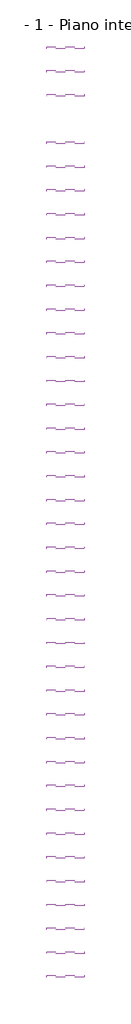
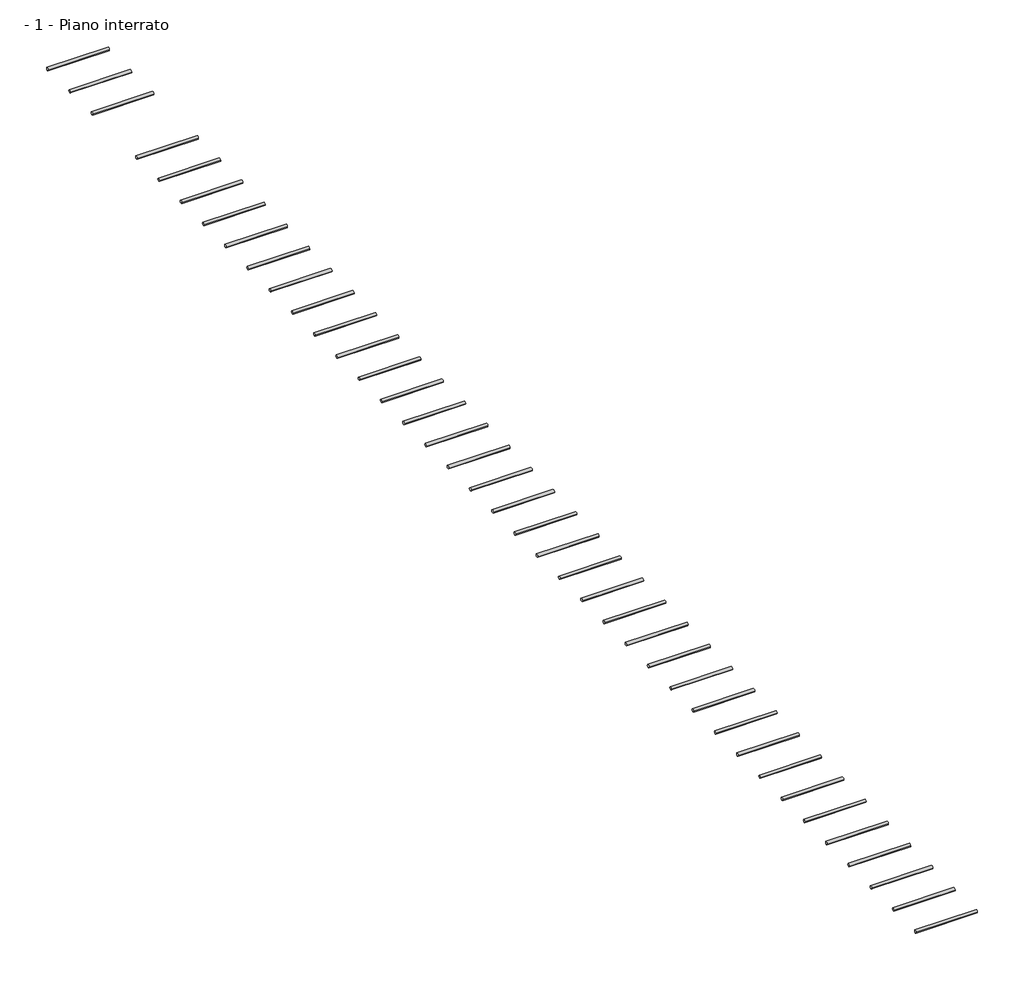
# One storey: 39 proxies.
"""IFC4 building model written with IfcOpenShell, lengths in millimetres."""

import ifcopenshell
import ifcopenshell.guid

model = None  # the IFC model being written
_history = None  # IfcOwnerHistory: only IFC2X3 demands one
_inside = {}  # id of a spatial element -> (the spatial element, [elements in it])
_under = {}  # id of a project, library or spatial element -> (it, [spatial elements below it])
_declared = {}  # id of a project -> (the project, [libraries it declares])
_typed = {}  # id of a type object -> (the type object, [elements of that type])
_made_of = {}  # id of a material, layer set ... -> (it, [elements and type objects made of it])


def new_model(schema):
    """Start an empty IFC model of exactly this schema.

    Asked for "IFC4X3", IfcOpenShell would pick the latest addendum, in which some entities
    have other attributes; the version numbers below select the first issue.
    IFC2X3 requires an IfcOwnerHistory on every rooted entity: one is made here for all.
    """
    global model, _history
    if schema == "IFC4X3":
        model = ifcopenshell.file(schema_version=(4, 3, 0, 0))
    else:
        model = ifcopenshell.file(schema=schema)
    _inside.clear()
    _under.clear()
    _declared.clear()
    _typed.clear()
    _made_of.clear()
    _history = None
    if model.schema == "IFC2X3":
        org = make("IfcOrganization", Name="unknown")
        user = make(
            "IfcPersonAndOrganization",
            ThePerson=make("IfcPerson", FamilyName="unknown"),
            TheOrganization=org,
        )
        app = make(
            "IfcApplication",
            ApplicationDeveloper=org,
            Version="unknown",
            ApplicationFullName="unknown",
            ApplicationIdentifier="unknown",
        )
        _history = make(
            "IfcOwnerHistory",
            OwningUser=user,
            OwningApplication=app,
            ChangeAction="ADDED",
            CreationDate=0,
        )
    return model


def make(cls, **values):
    """One entity of the class cls with the attributes given. An attribute that is None is left unset."""
    return model.create_entity(
        cls, **{name: value for name, value in values.items() if value is not None}
    )


def rooted(cls, **values):
    """An entity with a GlobalId (a new one), such as an element, a storey or a relation."""
    return make(cls, GlobalId=ifcopenshell.guid.new(), OwnerHistory=_history, **values)


def si_unit(unit_type, name, prefix=None):
    """IfcSIUnit, for example si_unit("LENGTHUNIT", "METRE", prefix="MILLI")."""
    return make("IfcSIUnit", UnitType=unit_type, Prefix=prefix, Name=name)


def assignment(units):
    """IfcUnitAssignment: the units of a project."""
    return None if units is None else make("IfcUnitAssignment", Units=units)


def point(xyz):
    """IfcCartesianPoint."""
    return None if xyz is None else make("IfcCartesianPoint", Coordinates=xyz)


def direction(xyz):
    """IfcDirection."""
    return None if xyz is None else make("IfcDirection", DirectionRatios=xyz)


def frame(location, z_axis=None, x_axis=None):
    """IfcAxis2Placement3D, a coordinate frame: its origin and axes. An axis left out is left unset."""
    return make(
        "IfcAxis2Placement3D",
        Location=point(location),
        Axis=direction(z_axis),
        RefDirection=direction(x_axis),
    )


def frame_2d(location, x_axis=None):
    """IfcAxis2Placement2D, a coordinate frame in the plane: its origin and x axis."""
    return make(
        "IfcAxis2Placement2D", Location=point(location), RefDirection=direction(x_axis)
    )


def origin():
    """The frame at (0, 0, 0) with its axes left unset."""
    return frame((0.0, 0.0, 0.0))


def origin_with_axes():
    """The frame at (0, 0, 0) with the z axis (0, 0, 1) and the x axis (1, 0, 0) written out."""
    return frame((0.0, 0.0, 0.0), z_axis=(0.0, 0.0, 1.0), x_axis=(1.0, 0.0, 0.0))


def origin_2d():
    """The frame at (0, 0) in the plane with its x axis left unset."""
    return frame_2d((0.0, 0.0))


def place(relative_to, where):
    """IfcLocalPlacement: puts the frame where relative to a parent placement (None: the world)."""
    return make(
        "IfcLocalPlacement", PlacementRelTo=relative_to, RelativePlacement=where
    )


def context(
    kind, dimensions, precision=None, world=None, true_north=None, identifier=None
):
    """IfcGeometricRepresentationContext, for example the 3D "Model" context."""
    return make(
        "IfcGeometricRepresentationContext",
        ContextIdentifier=identifier,
        ContextType=kind,
        CoordinateSpaceDimension=dimensions,
        Precision=precision,
        WorldCoordinateSystem=world,
        TrueNorth=true_north,
    )


def project(units=None, contexts=None):
    """IfcProject with its units and contexts."""
    return rooted(
        "IfcProject",
        Name="project",
        RepresentationContexts=contexts,
        UnitsInContext=assignment(units),
    )


def spatial(cls, under=None, at=None, **own):
    """A site, building, storey or space (cls), placed at a placement, below another one or the project."""
    s = rooted(cls, ObjectPlacement=at, **own)
    if under is not None:
        _under.setdefault(under.id(), (under, []))[1].append(s)
    return s


def circle_curve(where, radius):
    """IfcCircle in the frame where."""
    return make("IfcCircle", Position=where, Radius=radius)


def trimmed(basis, trim1, trim2, sense, master):
    """IfcTrimmedCurve: the piece of a basis curve between two trims."""
    return make(
        "IfcTrimmedCurve",
        BasisCurve=basis,
        Trim1=trim1,
        Trim2=trim2,
        SenseAgreement=sense,
        MasterRepresentation=master,
    )


def segment(curve, same_sense, transition):
    """IfcCompositeCurveSegment."""
    return make(
        "IfcCompositeCurveSegment",
        Transition=transition,
        SameSense=same_sense,
        ParentCurve=curve,
    )


def composite_curve(segments, self_intersect=None):
    """IfcCompositeCurve: segments joined end to end."""
    return make("IfcCompositeCurve", Segments=segments, SelfIntersect=self_intersect)


def outline(outer, holes=None, kind="AREA"):
    """IfcArbitraryClosedProfileDef: a profile drawn as a closed curve; with holes, ...WithVoids."""
    if holes is None:
        return make("IfcArbitraryClosedProfileDef", ProfileType=kind, OuterCurve=outer)
    return make(
        "IfcArbitraryProfileDefWithVoids",
        ProfileType=kind,
        OuterCurve=outer,
        InnerCurves=holes,
    )


def extrude(swept, where, along, depth):
    """IfcExtrudedAreaSolid: the profile swept, set in the frame where, extruded along a direction by depth."""
    return make(
        "IfcExtrudedAreaSolid",
        SweptArea=swept,
        Position=where,
        ExtrudedDirection=direction(along),
        Depth=depth,
    )


def shape(context_of_items, identifier, shape_type, items):
    """IfcShapeRepresentation: the items that make up one representation, for example the "Body"."""
    return make(
        "IfcShapeRepresentation",
        ContextOfItems=context_of_items,
        RepresentationIdentifier=identifier,
        RepresentationType=shape_type,
        Items=items,
    )


def source(mapping_origin, context_of_items, identifier, shape_type, items):
    """IfcRepresentationMap: a shape defined once, which mapped items show again and again."""
    return make(
        "IfcRepresentationMap",
        MappingOrigin=mapping_origin,
        MappedRepresentation=shape(context_of_items, identifier, shape_type, items),
    )


def transform(
    local_origin,
    x_axis=None,
    y_axis=None,
    z_axis=None,
    scale=None,
    scale2=None,
    scale3=None,
    uniform=True,
):
    """IfcCartesianTransformationOperator3D, or its non-uniform kind. x_axis, y_axis, z_axis: its Axis1, 2, 3."""
    if uniform:
        return make(
            "IfcCartesianTransformationOperator3D",
            Axis1=direction(x_axis),
            Axis2=direction(y_axis),
            LocalOrigin=point(local_origin),
            Scale=scale,
            Axis3=direction(z_axis),
        )
    return make(
        "IfcCartesianTransformationOperator3DnonUniform",
        Axis1=direction(x_axis),
        Axis2=direction(y_axis),
        LocalOrigin=point(local_origin),
        Scale=scale,
        Axis3=direction(z_axis),
        Scale2=scale2,
        Scale3=scale3,
    )


def mapped(mapping_source, mapping_target):
    """IfcMappedItem: shows the shape of a source again, moved by a transform."""
    return make(
        "IfcMappedItem", MappingSource=mapping_source, MappingTarget=mapping_target
    )


def made_of(thing, what):
    """Note that an element or type object is made of a material, layer set ...; save() writes the relation."""
    if what is not None:
        _made_of.setdefault(what.id(), (what, []))[1].append(thing)
    return thing


def element(
    cls,
    number,
    at=None,
    inside=None,
    cuts=None,
    type_object=None,
    material=None,
    context=None,
    identifier="Body",
    shape_type=None,
    held_by="IfcProductDefinitionShape",
    body=None,
    shapes=None,
    **own,
):
    """One element of the class cls, such as IfcWall. Its Tag is "e" and its number.

    at: its placement. inside: the storey or other place that contains it. cuts: it is an
    opening in that element (IfcRelVoidsElement). A single representation is given by context,
    identifier, shape_type and body (its items); several are given by shapes. held_by: the class
    of the entity that holds the representations. save() writes the other relations.
    """
    e = rooted(cls, Tag="e%d" % number, ObjectPlacement=at, **own)
    if body is not None:
        shapes = [shape(context, identifier, shape_type, body)]
    if shapes is not None:
        e.Representation = make(held_by, Representations=shapes)
    if inside is not None:
        _inside.setdefault(inside.id(), (inside, []))[1].append(e)
    if cuts is not None:
        rooted(
            "IfcRelVoidsElement", RelatingBuildingElement=cuts, RelatedOpeningElement=e
        )
    if type_object is not None:
        _typed.setdefault(type_object.id(), (type_object, []))[1].append(e)
    return made_of(e, material)


def aggregate(whole, parts):
    """IfcRelAggregates: a whole, such as a stair, and the parts it consists of."""
    return rooted("IfcRelAggregates", RelatingObject=whole, RelatedObjects=parts)


def save(model, path):
    """Write the relations noted so far, then the file.

    IfcRelAggregates (storeys below a building ...), IfcRelContainedInSpatialStructure (elements
    in a storey), IfcRelDefinesByType, IfcRelAssociatesMaterial and IfcRelDeclares: one each for
    every whole, place, type object, material and project.
    """
    for whole, parts in _under.values():
        aggregate(whole, parts)
    for where, things in _inside.values():
        rooted(
            "IfcRelContainedInSpatialStructure",
            RelatedElements=things,
            RelatingStructure=where,
        )
    for kind, things in _typed.values():
        rooted("IfcRelDefinesByType", RelatedObjects=things, RelatingType=kind)
    for what, things in _made_of.values():
        rooted("IfcRelAssociatesMaterial", RelatedObjects=things, RelatingMaterial=what)
    for by, libraries in _declared.values():
        rooted("IfcRelDeclares", RelatingContext=by, RelatedDefinitions=libraries)
    model.write(path)


def ita_triple_zero_ita_triple_zero_a9e28b2d(model_context):
    return source(origin(), model_context, "Body", "SweptSolid", [
        extrude(outline(composite_curve([segment(trimmed(circle_curve(origin_2d(), 5.0), [point((-5.0, 0.0))], [point((5.0, 0.0))], False, "CARTESIAN"), True, "CONTINUOUS"), segment(trimmed(circle_curve(origin_2d(), 5.0), [point((5.0, 0.0))], [point((-5.0, 0.0))], False, "CARTESIAN"), True, "CONTINUOUS")], self_intersect=False)), origin_with_axes(), (0.0, 0.0, 1.0), 190.0),
    ])


model = new_model("IFC4")

# Units and contexts
model_context = context("Model", 3, world=origin())
ifc_project = project(units=[si_unit("LENGTHUNIT", "METRE", prefix="MILLI")], contexts=[model_context])

# Site, building, storey
site = spatial("IfcSite", under=ifc_project)
building = spatial("IfcBuilding", under=site)
storey = spatial("IfcBuildingStorey", under=building, Name="- 1 - Piano interrato", Elevation=-2500.0)

# Proxies
placement = place(None, origin())
ita_triple_zero_ita_triple_zero_shape = ita_triple_zero_ita_triple_zero_a9e28b2d(model_context)
element("IfcBuildingElementProxy", 1, Name="ITA-TRIPLE ZERO : ITA-TRIPLE ZERO", ObjectType="ITA-TRIPLE ZERO : ITA-TRIPLE ZERO", at=placement, inside=storey, context=model_context, shape_type="MappedRepresentation", body=[
    mapped(ita_triple_zero_ita_triple_zero_shape, transform((-5638.8968209, 6941.5778451, 80.1133199), x_axis=(0.0, -1.0, 0.0), y_axis=(0.0, 0.0, 1.0), z_axis=(-1.0, 0.0, 0.0))),
])
element("IfcBuildingElementProxy", 2, Name="ITA-TRIPLE ZERO : ITA-TRIPLE ZERO", ObjectType="ITA-TRIPLE ZERO : ITA-TRIPLE ZERO", at=placement, inside=storey, context=model_context, shape_type="MappedRepresentation", body=[
    mapped(ita_triple_zero_ita_triple_zero_shape, transform((-5638.8968209, 6821.5778451, 80.1133199), x_axis=(0.0, -1.0, 0.0), y_axis=(0.0, 0.0, 1.0), z_axis=(-1.0, 0.0, 0.0))),
])
element("IfcBuildingElementProxy", 3, Name="ITA-TRIPLE ZERO : ITA-TRIPLE ZERO", ObjectType="ITA-TRIPLE ZERO : ITA-TRIPLE ZERO", at=placement, inside=storey, context=model_context, shape_type="MappedRepresentation", body=[
    mapped(ita_triple_zero_ita_triple_zero_shape, transform((-5638.8968209, 6701.5778451, 80.1133199), x_axis=(0.0, -1.0, 0.0), y_axis=(0.0, 0.0, 1.0), z_axis=(-1.0, 0.0, 0.0))),
])
element("IfcBuildingElementProxy", 4, Name="ITA-TRIPLE ZERO : ITA-TRIPLE ZERO", ObjectType="ITA-TRIPLE ZERO : ITA-TRIPLE ZERO", at=placement, inside=storey, context=model_context, shape_type="MappedRepresentation", body=[
    mapped(ita_triple_zero_ita_triple_zero_shape, transform((-5638.8968209, 6461.5778451, 80.1133199), x_axis=(0.0, -1.0, 0.0), y_axis=(0.0, 0.0, 1.0), z_axis=(-1.0, 0.0, 0.0))),
])
element("IfcBuildingElementProxy", 5, Name="ITA-TRIPLE ZERO : ITA-TRIPLE ZERO", ObjectType="ITA-TRIPLE ZERO : ITA-TRIPLE ZERO", at=placement, inside=storey, context=model_context, shape_type="MappedRepresentation", body=[
    mapped(ita_triple_zero_ita_triple_zero_shape, transform((-5638.8968209, 6341.5778451, 80.1133199), x_axis=(0.0, -1.0, 0.0), y_axis=(0.0, 0.0, 1.0), z_axis=(-1.0, 0.0, 0.0))),
])
element("IfcBuildingElementProxy", 6, Name="ITA-TRIPLE ZERO : ITA-TRIPLE ZERO", ObjectType="ITA-TRIPLE ZERO : ITA-TRIPLE ZERO", at=placement, inside=storey, context=model_context, shape_type="MappedRepresentation", body=[
    mapped(ita_triple_zero_ita_triple_zero_shape, transform((-5638.8968209, 6221.5778451, 80.1133199), x_axis=(0.0, -1.0, 0.0), y_axis=(0.0, 0.0, 1.0), z_axis=(-1.0, 0.0, 0.0))),
])
element("IfcBuildingElementProxy", 7, Name="ITA-TRIPLE ZERO : ITA-TRIPLE ZERO", ObjectType="ITA-TRIPLE ZERO : ITA-TRIPLE ZERO", at=placement, inside=storey, context=model_context, shape_type="MappedRepresentation", body=[
    mapped(ita_triple_zero_ita_triple_zero_shape, transform((-5638.8968209, 6101.5778451, 80.1133199), x_axis=(0.0, -1.0, 0.0), y_axis=(0.0, 0.0, 1.0), z_axis=(-1.0, 0.0, 0.0))),
])
element("IfcBuildingElementProxy", 8, Name="ITA-TRIPLE ZERO : ITA-TRIPLE ZERO", ObjectType="ITA-TRIPLE ZERO : ITA-TRIPLE ZERO", at=placement, inside=storey, context=model_context, shape_type="MappedRepresentation", body=[
    mapped(ita_triple_zero_ita_triple_zero_shape, transform((-5638.8968209, 5981.5778451, 80.1133199), x_axis=(0.0, -1.0, 0.0), y_axis=(0.0, 0.0, 1.0), z_axis=(-1.0, 0.0, 0.0))),
])
element("IfcBuildingElementProxy", 9, Name="ITA-TRIPLE ZERO : ITA-TRIPLE ZERO", ObjectType="ITA-TRIPLE ZERO : ITA-TRIPLE ZERO", at=placement, inside=storey, context=model_context, shape_type="MappedRepresentation", body=[
    mapped(ita_triple_zero_ita_triple_zero_shape, transform((-5638.8968209, 5861.5778451, 80.1133199), x_axis=(0.0, -1.0, 0.0), y_axis=(0.0, 0.0, 1.0), z_axis=(-1.0, 0.0, 0.0))),
])
element("IfcBuildingElementProxy", 10, Name="ITA-TRIPLE ZERO : ITA-TRIPLE ZERO", ObjectType="ITA-TRIPLE ZERO : ITA-TRIPLE ZERO", at=placement, inside=storey, context=model_context, shape_type="MappedRepresentation", body=[
    mapped(ita_triple_zero_ita_triple_zero_shape, transform((-5638.8968209, 5741.5778451, 80.1133199), x_axis=(0.0, -1.0, 0.0), y_axis=(0.0, 0.0, 1.0), z_axis=(-1.0, 0.0, 0.0))),
])
element("IfcBuildingElementProxy", 11, Name="ITA-TRIPLE ZERO : ITA-TRIPLE ZERO", ObjectType="ITA-TRIPLE ZERO : ITA-TRIPLE ZERO", at=placement, inside=storey, context=model_context, shape_type="MappedRepresentation", body=[
    mapped(ita_triple_zero_ita_triple_zero_shape, transform((-5638.8968209, 5621.5778451, 80.1133199), x_axis=(0.0, -1.0, 0.0), y_axis=(0.0, 0.0, 1.0), z_axis=(-1.0, 0.0, 0.0))),
])
element("IfcBuildingElementProxy", 12, Name="ITA-TRIPLE ZERO : ITA-TRIPLE ZERO", ObjectType="ITA-TRIPLE ZERO : ITA-TRIPLE ZERO", at=placement, inside=storey, context=model_context, shape_type="MappedRepresentation", body=[
    mapped(ita_triple_zero_ita_triple_zero_shape, transform((-5638.8968209, 5501.5778451, 80.1133199), x_axis=(0.0, -1.0, 0.0), y_axis=(0.0, 0.0, 1.0), z_axis=(-1.0, 0.0, 0.0))),
])
element("IfcBuildingElementProxy", 13, Name="ITA-TRIPLE ZERO : ITA-TRIPLE ZERO", ObjectType="ITA-TRIPLE ZERO : ITA-TRIPLE ZERO", at=placement, inside=storey, context=model_context, shape_type="MappedRepresentation", body=[
    mapped(ita_triple_zero_ita_triple_zero_shape, transform((-5638.8968209, 5381.5778451, 80.1133199), x_axis=(0.0, -1.0, 0.0), y_axis=(0.0, 0.0, 1.0), z_axis=(-1.0, 0.0, 0.0))),
])
element("IfcBuildingElementProxy", 14, Name="ITA-TRIPLE ZERO : ITA-TRIPLE ZERO", ObjectType="ITA-TRIPLE ZERO : ITA-TRIPLE ZERO", at=placement, inside=storey, context=model_context, shape_type="MappedRepresentation", body=[
    mapped(ita_triple_zero_ita_triple_zero_shape, transform((-5638.8968209, 5261.5778451, 80.1133199), x_axis=(0.0, -1.0, 0.0), y_axis=(0.0, 0.0, 1.0), z_axis=(-1.0, 0.0, 0.0))),
])
element("IfcBuildingElementProxy", 15, Name="ITA-TRIPLE ZERO : ITA-TRIPLE ZERO", ObjectType="ITA-TRIPLE ZERO : ITA-TRIPLE ZERO", at=placement, inside=storey, context=model_context, shape_type="MappedRepresentation", body=[
    mapped(ita_triple_zero_ita_triple_zero_shape, transform((-5638.8968209, 5141.5778451, 80.1133199), x_axis=(0.0, -1.0, 0.0), y_axis=(0.0, 0.0, 1.0), z_axis=(-1.0, 0.0, 0.0))),
])
element("IfcBuildingElementProxy", 16, Name="ITA-TRIPLE ZERO : ITA-TRIPLE ZERO", ObjectType="ITA-TRIPLE ZERO : ITA-TRIPLE ZERO", at=placement, inside=storey, context=model_context, shape_type="MappedRepresentation", body=[
    mapped(ita_triple_zero_ita_triple_zero_shape, transform((-5638.8968209, 5021.5778451, 80.1133199), x_axis=(0.0, -1.0, 0.0), y_axis=(0.0, 0.0, 1.0), z_axis=(-1.0, 0.0, 0.0))),
])
element("IfcBuildingElementProxy", 17, Name="ITA-TRIPLE ZERO : ITA-TRIPLE ZERO", ObjectType="ITA-TRIPLE ZERO : ITA-TRIPLE ZERO", at=placement, inside=storey, context=model_context, shape_type="MappedRepresentation", body=[
    mapped(ita_triple_zero_ita_triple_zero_shape, transform((-5638.8968209, 4901.5778451, 80.1133199), x_axis=(0.0, -1.0, 0.0), y_axis=(0.0, 0.0, 1.0), z_axis=(-1.0, 0.0, 0.0))),
])
element("IfcBuildingElementProxy", 18, Name="ITA-TRIPLE ZERO : ITA-TRIPLE ZERO", ObjectType="ITA-TRIPLE ZERO : ITA-TRIPLE ZERO", at=placement, inside=storey, context=model_context, shape_type="MappedRepresentation", body=[
    mapped(ita_triple_zero_ita_triple_zero_shape, transform((-5638.8968209, 4781.5778451, 80.1133199), x_axis=(0.0, -1.0, 0.0), y_axis=(0.0, 0.0, 1.0), z_axis=(-1.0, 0.0, 0.0))),
])
element("IfcBuildingElementProxy", 19, Name="ITA-TRIPLE ZERO : ITA-TRIPLE ZERO", ObjectType="ITA-TRIPLE ZERO : ITA-TRIPLE ZERO", at=placement, inside=storey, context=model_context, shape_type="MappedRepresentation", body=[
    mapped(ita_triple_zero_ita_triple_zero_shape, transform((-5638.8968209, 4661.5778451, 80.1133199), x_axis=(0.0, -1.0, 0.0), y_axis=(0.0, 0.0, 1.0), z_axis=(-1.0, 0.0, 0.0))),
])
element("IfcBuildingElementProxy", 20, Name="ITA-TRIPLE ZERO : ITA-TRIPLE ZERO", ObjectType="ITA-TRIPLE ZERO : ITA-TRIPLE ZERO", at=placement, inside=storey, context=model_context, shape_type="MappedRepresentation", body=[
    mapped(ita_triple_zero_ita_triple_zero_shape, transform((-5638.8968209, 4541.5778451, 80.1133199), x_axis=(0.0, -1.0, 0.0), y_axis=(0.0, 0.0, 1.0), z_axis=(-1.0, 0.0, 0.0))),
])
element("IfcBuildingElementProxy", 21, Name="ITA-TRIPLE ZERO : ITA-TRIPLE ZERO", ObjectType="ITA-TRIPLE ZERO : ITA-TRIPLE ZERO", at=placement, inside=storey, context=model_context, shape_type="MappedRepresentation", body=[
    mapped(ita_triple_zero_ita_triple_zero_shape, transform((-5638.8968209, 4421.5778451, 80.1133199), x_axis=(0.0, -1.0, 0.0), y_axis=(0.0, 0.0, 1.0), z_axis=(-1.0, 0.0, 0.0))),
])
element("IfcBuildingElementProxy", 22, Name="ITA-TRIPLE ZERO : ITA-TRIPLE ZERO", ObjectType="ITA-TRIPLE ZERO : ITA-TRIPLE ZERO", at=placement, inside=storey, context=model_context, shape_type="MappedRepresentation", body=[
    mapped(ita_triple_zero_ita_triple_zero_shape, transform((-5638.8968209, 4301.5778451, 80.1133199), x_axis=(0.0, -1.0, 0.0), y_axis=(0.0, 0.0, 1.0), z_axis=(-1.0, 0.0, 0.0))),
])
element("IfcBuildingElementProxy", 23, Name="ITA-TRIPLE ZERO : ITA-TRIPLE ZERO", ObjectType="ITA-TRIPLE ZERO : ITA-TRIPLE ZERO", at=placement, inside=storey, context=model_context, shape_type="MappedRepresentation", body=[
    mapped(ita_triple_zero_ita_triple_zero_shape, transform((-5638.8968209, 4181.5778451, 80.1133199), x_axis=(0.0, -1.0, 0.0), y_axis=(0.0, 0.0, 1.0), z_axis=(-1.0, 0.0, 0.0))),
])
element("IfcBuildingElementProxy", 24, Name="ITA-TRIPLE ZERO : ITA-TRIPLE ZERO", ObjectType="ITA-TRIPLE ZERO : ITA-TRIPLE ZERO", at=placement, inside=storey, context=model_context, shape_type="MappedRepresentation", body=[
    mapped(ita_triple_zero_ita_triple_zero_shape, transform((-5638.8968209, 4061.5778451, 80.1133199), x_axis=(0.0, -1.0, 0.0), y_axis=(0.0, 0.0, 1.0), z_axis=(-1.0, 0.0, 0.0))),
])
element("IfcBuildingElementProxy", 25, Name="ITA-TRIPLE ZERO : ITA-TRIPLE ZERO", ObjectType="ITA-TRIPLE ZERO : ITA-TRIPLE ZERO", at=placement, inside=storey, context=model_context, shape_type="MappedRepresentation", body=[
    mapped(ita_triple_zero_ita_triple_zero_shape, transform((-5638.8968209, 3941.5778451, 80.1133199), x_axis=(0.0, -1.0, 0.0), y_axis=(0.0, 0.0, 1.0), z_axis=(-1.0, 0.0, 0.0))),
])
element("IfcBuildingElementProxy", 26, Name="ITA-TRIPLE ZERO : ITA-TRIPLE ZERO", ObjectType="ITA-TRIPLE ZERO : ITA-TRIPLE ZERO", at=placement, inside=storey, context=model_context, shape_type="MappedRepresentation", body=[
    mapped(ita_triple_zero_ita_triple_zero_shape, transform((-5638.8968209, 3821.5778451, 80.1133199), x_axis=(0.0, -1.0, 0.0), y_axis=(0.0, 0.0, 1.0), z_axis=(-1.0, 0.0, 0.0))),
])
element("IfcBuildingElementProxy", 27, Name="ITA-TRIPLE ZERO : ITA-TRIPLE ZERO", ObjectType="ITA-TRIPLE ZERO : ITA-TRIPLE ZERO", at=placement, inside=storey, context=model_context, shape_type="MappedRepresentation", body=[
    mapped(ita_triple_zero_ita_triple_zero_shape, transform((-5638.8968209, 3701.5778451, 80.1133199), x_axis=(0.0, -1.0, 0.0), y_axis=(0.0, 0.0, 1.0), z_axis=(-1.0, 0.0, 0.0))),
])
element("IfcBuildingElementProxy", 28, Name="ITA-TRIPLE ZERO : ITA-TRIPLE ZERO", ObjectType="ITA-TRIPLE ZERO : ITA-TRIPLE ZERO", at=placement, inside=storey, context=model_context, shape_type="MappedRepresentation", body=[
    mapped(ita_triple_zero_ita_triple_zero_shape, transform((-5638.8968209, 3581.5778451, 80.1133199), x_axis=(0.0, -1.0, 0.0), y_axis=(0.0, 0.0, 1.0), z_axis=(-1.0, 0.0, 0.0))),
])
element("IfcBuildingElementProxy", 29, Name="ITA-TRIPLE ZERO : ITA-TRIPLE ZERO", ObjectType="ITA-TRIPLE ZERO : ITA-TRIPLE ZERO", at=placement, inside=storey, context=model_context, shape_type="MappedRepresentation", body=[
    mapped(ita_triple_zero_ita_triple_zero_shape, transform((-5638.8968209, 3461.5778451, 80.1133199), x_axis=(0.0, -1.0, 0.0), y_axis=(0.0, 0.0, 1.0), z_axis=(-1.0, 0.0, 0.0))),
])
element("IfcBuildingElementProxy", 30, Name="ITA-TRIPLE ZERO : ITA-TRIPLE ZERO", ObjectType="ITA-TRIPLE ZERO : ITA-TRIPLE ZERO", at=placement, inside=storey, context=model_context, shape_type="MappedRepresentation", body=[
    mapped(ita_triple_zero_ita_triple_zero_shape, transform((-5638.8968209, 3341.5778451, 80.1133199), x_axis=(0.0, -1.0, 0.0), y_axis=(0.0, 0.0, 1.0), z_axis=(-1.0, 0.0, 0.0))),
])
element("IfcBuildingElementProxy", 31, Name="ITA-TRIPLE ZERO : ITA-TRIPLE ZERO", ObjectType="ITA-TRIPLE ZERO : ITA-TRIPLE ZERO", at=placement, inside=storey, context=model_context, shape_type="MappedRepresentation", body=[
    mapped(ita_triple_zero_ita_triple_zero_shape, transform((-5638.8968209, 3221.5778451, 80.1133199), x_axis=(0.0, -1.0, 0.0), y_axis=(0.0, 0.0, 1.0), z_axis=(-1.0, 0.0, 0.0))),
])
element("IfcBuildingElementProxy", 32, Name="ITA-TRIPLE ZERO : ITA-TRIPLE ZERO", ObjectType="ITA-TRIPLE ZERO : ITA-TRIPLE ZERO", at=placement, inside=storey, context=model_context, shape_type="MappedRepresentation", body=[
    mapped(ita_triple_zero_ita_triple_zero_shape, transform((-5638.8968209, 3101.5778451, 80.1133199), x_axis=(0.0, -1.0, 0.0), y_axis=(0.0, 0.0, 1.0), z_axis=(-1.0, 0.0, 0.0))),
])
element("IfcBuildingElementProxy", 33, Name="ITA-TRIPLE ZERO : ITA-TRIPLE ZERO", ObjectType="ITA-TRIPLE ZERO : ITA-TRIPLE ZERO", at=placement, inside=storey, context=model_context, shape_type="MappedRepresentation", body=[
    mapped(ita_triple_zero_ita_triple_zero_shape, transform((-5638.8968209, 2981.5778451, 80.1133199), x_axis=(0.0, -1.0, 0.0), y_axis=(0.0, 0.0, 1.0), z_axis=(-1.0, 0.0, 0.0))),
])
element("IfcBuildingElementProxy", 34, Name="ITA-TRIPLE ZERO : ITA-TRIPLE ZERO", ObjectType="ITA-TRIPLE ZERO : ITA-TRIPLE ZERO", at=placement, inside=storey, context=model_context, shape_type="MappedRepresentation", body=[
    mapped(ita_triple_zero_ita_triple_zero_shape, transform((-5638.8968209, 2861.5778451, 80.1133199), x_axis=(0.0, -1.0, 0.0), y_axis=(0.0, 0.0, 1.0), z_axis=(-1.0, 0.0, 0.0))),
])
element("IfcBuildingElementProxy", 35, Name="ITA-TRIPLE ZERO : ITA-TRIPLE ZERO", ObjectType="ITA-TRIPLE ZERO : ITA-TRIPLE ZERO", at=placement, inside=storey, context=model_context, shape_type="MappedRepresentation", body=[
    mapped(ita_triple_zero_ita_triple_zero_shape, transform((-5638.8968209, 2741.5778451, 80.1133199), x_axis=(0.0, -1.0, 0.0), y_axis=(0.0, 0.0, 1.0), z_axis=(-1.0, 0.0, 0.0))),
])
element("IfcBuildingElementProxy", 36, Name="ITA-TRIPLE ZERO : ITA-TRIPLE ZERO", ObjectType="ITA-TRIPLE ZERO : ITA-TRIPLE ZERO", at=placement, inside=storey, context=model_context, shape_type="MappedRepresentation", body=[
    mapped(ita_triple_zero_ita_triple_zero_shape, transform((-5638.8968209, 2621.5778451, 80.1133199), x_axis=(0.0, -1.0, 0.0), y_axis=(0.0, 0.0, 1.0), z_axis=(-1.0, 0.0, 0.0))),
])
element("IfcBuildingElementProxy", 37, Name="ITA-TRIPLE ZERO : ITA-TRIPLE ZERO", ObjectType="ITA-TRIPLE ZERO : ITA-TRIPLE ZERO", at=placement, inside=storey, context=model_context, shape_type="MappedRepresentation", body=[
    mapped(ita_triple_zero_ita_triple_zero_shape, transform((-5638.8968209, 2501.5778451, 80.1133199), x_axis=(0.0, -1.0, 0.0), y_axis=(0.0, 0.0, 1.0), z_axis=(-1.0, 0.0, 0.0))),
])
element("IfcBuildingElementProxy", 38, Name="ITA-TRIPLE ZERO : ITA-TRIPLE ZERO", ObjectType="ITA-TRIPLE ZERO : ITA-TRIPLE ZERO", at=placement, inside=storey, context=model_context, shape_type="MappedRepresentation", body=[
    mapped(ita_triple_zero_ita_triple_zero_shape, transform((-5638.8968209, 2381.5778451, 80.1133199), x_axis=(0.0, -1.0, 0.0), y_axis=(0.0, 0.0, 1.0), z_axis=(-1.0, 0.0, 0.0))),
])
element("IfcBuildingElementProxy", 39, Name="ITA-TRIPLE ZERO : ITA-TRIPLE ZERO", ObjectType="ITA-TRIPLE ZERO : ITA-TRIPLE ZERO", at=placement, inside=storey, context=model_context, shape_type="MappedRepresentation", body=[
    mapped(ita_triple_zero_ita_triple_zero_shape, transform((-5638.8968209, 2261.5778451, 80.1133199), x_axis=(0.0, -1.0, 0.0), y_axis=(0.0, 0.0, 1.0), z_axis=(-1.0, 0.0, 0.0))),
])

save(model, "model.ifc")
